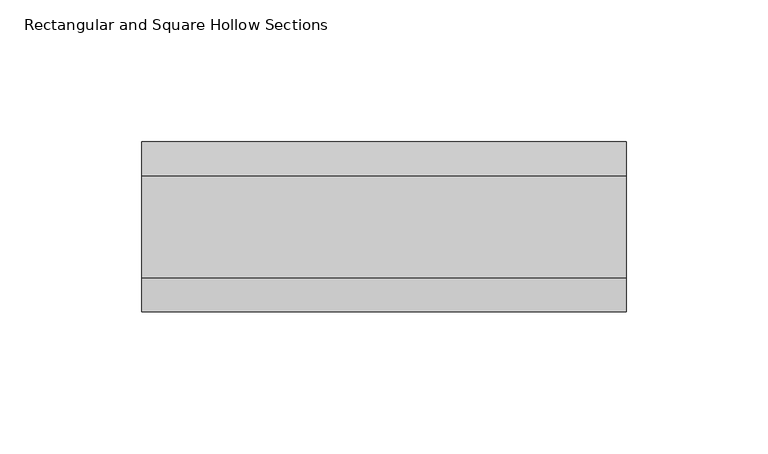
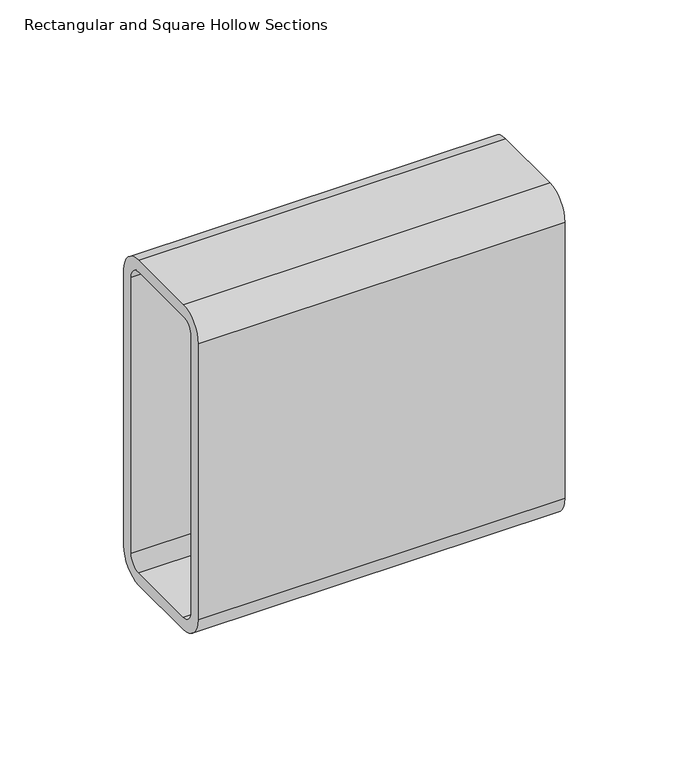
"""IFC4 building model written with IfcOpenShell, lengths in millimetres: beam geometry, Rectangular and Square Hollow Sections : TREC160x60x6."""

from ifc_helpers import new_model, si_unit, point, frame, frame_2d, origin, place, context, project, spatial, polyline, circle_curve, trimmed, segment, composite_curve, outline, extrude, source, transform, mapped, element, save


def rectangular_and_square_hollow_sections_0aaa1cef(model_context):
    return source(origin(), model_context, "Body", "SweptSolid", [
        extrude(outline(composite_curve([segment(polyline([(30.0, 68.0), (30.0, -68.0)]), True, "CONTINUOUS"), segment(trimmed(circle_curve(frame_2d((18.0, -68.0)), 12.0), [point((30.0, -68.0))], [point((18.0, -80.0))], False, "CARTESIAN"), True, "CONTINUOUS"), segment(polyline([(18.0, -80.0), (-18.0, -80.0)]), True, "CONTINUOUS"), segment(trimmed(circle_curve(frame_2d((-18.0, -68.0)), 12.0), [point((-18.0, -80.0))], [point((-30.0, -68.0))], False, "CARTESIAN"), True, "CONTINUOUS"), segment(polyline([(-30.0, -68.0), (-30.0, 68.0)]), True, "CONTINUOUS"), segment(trimmed(circle_curve(frame_2d((-18.0, 68.0)), 12.0), [point((-30.0, 68.0))], [point((-18.0, 80.0))], False, "CARTESIAN"), True, "CONTINUOUS"), segment(polyline([(-18.0, 80.0), (18.0, 80.0)]), True, "CONTINUOUS"), segment(trimmed(circle_curve(frame_2d((18.0, 68.0)), 12.0), [point((18.0, 80.0))], [point((30.0, 68.0))], False, "CARTESIAN"), True, "CONTINUOUS")], self_intersect=False), holes=[composite_curve([segment(trimmed(circle_curve(frame_2d((-18.0, 68.0)), 6.0), [point((-18.0, 74.0))], [point((-24.0, 68.0))], True, "CARTESIAN"), True, "CONTINUOUS"), segment(polyline([(-24.0, 68.0), (-24.0, -68.0)]), True, "CONTINUOUS"), segment(trimmed(circle_curve(frame_2d((-18.0, -68.0)), 6.0), [point((-24.0, -68.0))], [point((-18.0, -74.0))], True, "CARTESIAN"), True, "CONTINUOUS"), segment(polyline([(-18.0, -74.0), (18.0, -74.0)]), True, "CONTINUOUS"), segment(trimmed(circle_curve(frame_2d((18.0, -68.0)), 6.0), [point((18.0, -74.0))], [point((24.0, -68.0))], True, "CARTESIAN"), True, "CONTINUOUS"), segment(polyline([(24.0, -68.0), (24.0, 68.0)]), True, "CONTINUOUS"), segment(trimmed(circle_curve(frame_2d((18.0, 68.0)), 6.0), [point((24.0, 68.0))], [point((18.0, 74.0))], True, "CARTESIAN"), True, "CONTINUOUS"), segment(polyline([(18.0, 74.0), (-18.0, 74.0)]), True, "CONTINUOUS")], self_intersect=False)]), frame((-87.0, 0.0, 0.0), z_axis=(1.0, 0.0, 0.0), x_axis=(0.0, 1.0, 0.0)), (0.0, 0.0, 1.0), 171.0),
    ])


if __name__ == "__main__":
    model = new_model("IFC4")
    model_context = context("Model", 3, world=origin())
    ifc_project = project(units=[si_unit("LENGTHUNIT", "METRE", prefix="MILLI")], contexts=[model_context])
    site = spatial("IfcSite", under=ifc_project)
    building = spatial("IfcBuilding", under=site)
    placement = place(None, origin())
    rectangular_and_square_hollow_sections_shape = rectangular_and_square_hollow_sections_0aaa1cef(model_context)
    element("IfcBeam", 1, ObjectType="Rectangular and Square Hollow Sections : TREC160x60x6", at=placement, inside=building, context=model_context, shape_type="MappedRepresentation", body=[
        mapped(rectangular_and_square_hollow_sections_shape, transform((0.0, 0.0, 0.0), x_axis=(1.0, 0.0, 0.0), y_axis=(0.0, 1.0, 0.0), z_axis=(0.0, 0.0, 1.0))),
    ])
    save(model, "model.ifc")
